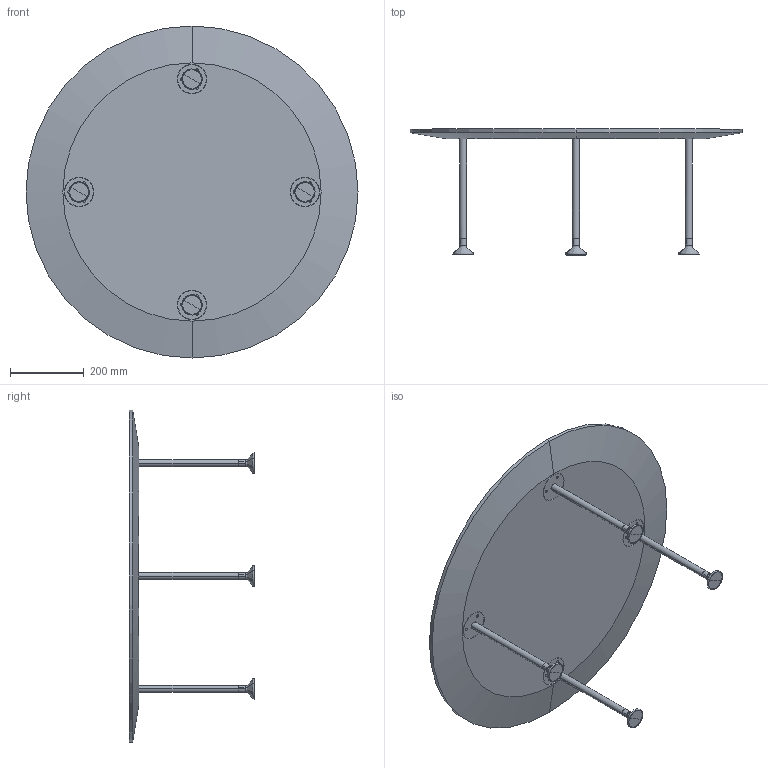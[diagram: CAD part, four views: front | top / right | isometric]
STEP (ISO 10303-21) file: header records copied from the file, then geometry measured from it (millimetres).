
FILE_DESCRIPTION (( 'STEP AP214' ), '1' );
FILE_NAME ('RoundØ900leg349.STEP', '2017-05-28T19:13:31', ( '' ), ( '' ), 'SwSTEP 2.0', 'SolidWorks 2016', '' );
FILE_SCHEMA (( 'AUTOMOTIVE_DESIGN' ));
Length unit declared in the file: millimetre
Products named in the file (3): Round ﾘ900; ben340; RoundØ900leg349
Assembly tree (5 placements, depth 2):
  RoundØ900leg349
    Round ﾘ900
    ben340  x4
Bounding box: 900 x 341 x 900 mm (x, y, z)
Volume: 14670582 mm3; surface area: 1512320.7 mm2
Topology: 13 solids, 13 shells, 130 faces, 306 edges, 190 vertices
Faces by surface type: cylinder 66, bspline 40, plane 22, cone 2
Entity records: 2452 total; most frequent: CARTESIAN_POINT 1328, DIRECTION 214, ORIENTED_EDGE 196, EDGE_CURVE 98, AXIS2_PLACEMENT_3D 94, VERTEX_POINT 64, EDGE_LOOP 60, CIRCLE 50
